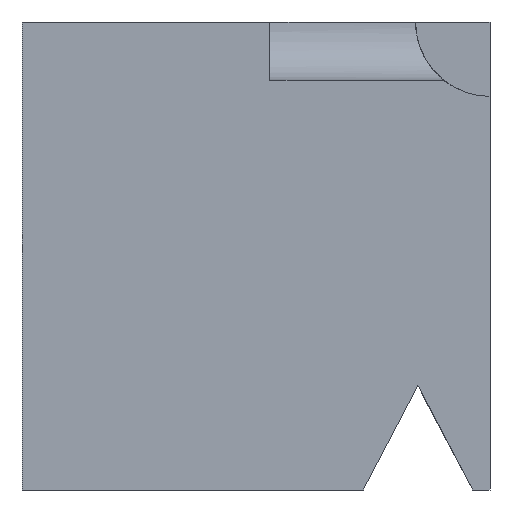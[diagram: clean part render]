
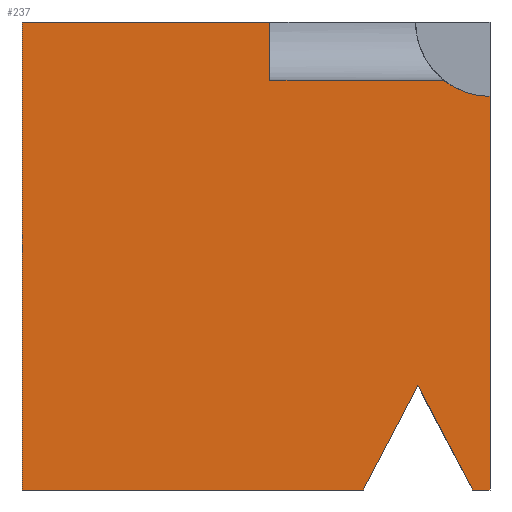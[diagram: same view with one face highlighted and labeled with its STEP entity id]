
A CAD part, left-side view. The second image highlights one B-rep face of the part: STEP entity #237.
In plain terms, the highlighted planar face has unit normal (-1, 0, 0).
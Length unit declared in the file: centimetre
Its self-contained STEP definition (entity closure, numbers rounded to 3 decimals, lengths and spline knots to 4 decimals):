
#4 = PLANE ( 'NONE',  #480 ) ;
#5 = VERTEX_POINT ( 'NONE', #208 ) ;
#10 = LINE ( 'NONE', #620, #73 ) ;
#15 = CIRCLE ( 'NONE', #579, 159.005 ) ;
#20 = ORIENTED_EDGE ( 'NONE', *, *, #349, .T. ) ;
#30 = CARTESIAN_POINT ( 'NONE',  ( 0., 270.71, 0. ) ) ;
#34 = VERTEX_POINT ( 'NONE', #356 ) ;
#48 = DIRECTION ( 'NONE',  ( 0., -0.465, 0.885 ) ) ;
#66 = DIRECTION ( 'NONE',  ( 0., 0., 1. ) ) ;
#73 = VECTOR ( 'NONE', #468, 100. ) ;
#108 = CARTESIAN_POINT ( 'NONE',  ( 0., 153.8986, 222.2711 ) ) ;
#119 = DIRECTION ( 'NONE',  ( -1., 0., 0. ) ) ;
#121 = ORIENTED_EDGE ( 'NONE', *, *, #298, .F. ) ;
#126 = ORIENTED_EDGE ( 'NONE', *, *, #132, .F. ) ;
#129 = LINE ( 'NONE', #339, #644 ) ;
#132 = EDGE_CURVE ( 'NONE', #322, #290, #145, .T. ) ;
#145 = LINE ( 'NONE', #639, #551 ) ;
#171 = LINE ( 'NONE', #568, #194 ) ;
#190 = LINE ( 'NONE', #443, #575 ) ;
#194 = VECTOR ( 'NONE', #573, 100. ) ;
#208 = CARTESIAN_POINT ( 'NONE',  ( 0., 37.0872, 0. ) ) ;
#221 = CARTESIAN_POINT ( 'NONE',  ( 0., 470.2648, 1000. ) ) ;
#227 = VERTEX_POINT ( 'NONE', #309 ) ;
#237 = ADVANCED_FACE ( 'NONE', ( #646 ), #4, .F. ) ;
#238 = CARTESIAN_POINT ( 'NONE',  ( 0., 0., 0. ) ) ;
#248 = CARTESIAN_POINT ( 'NONE',  ( 0., 1000., 0. ) ) ;
#252 = LINE ( 'NONE', #510, #310 ) ;
#259 = DIRECTION ( 'NONE',  ( 0., -1., 0. ) ) ;
#281 = EDGE_CURVE ( 'NONE', #290, #368, #10, .T. ) ;
#290 = VERTEX_POINT ( 'NONE', #221 ) ;
#298 = EDGE_CURVE ( 'NONE', #581, #227, #15, .T. ) ;
#309 = CARTESIAN_POINT ( 'NONE',  ( 0., 0., 840.995 ) ) ;
#310 = VECTOR ( 'NONE', #48, 100. ) ;
#314 = LINE ( 'NONE', #507, #341 ) ;
#319 = EDGE_CURVE ( 'NONE', #227, #435, #171, .T. ) ;
#320 = DIRECTION ( 'NONE',  ( 0., 1., 0. ) ) ;
#321 = CARTESIAN_POINT ( 'NONE',  ( 0., 1000., 1000. ) ) ;
#322 = VERTEX_POINT ( 'NONE', #333 ) ;
#326 = ORIENTED_EDGE ( 'NONE', *, *, #281, .F. ) ;
#330 = CARTESIAN_POINT ( 'NONE',  ( 0., 0., 1000. ) ) ;
#331 = EDGE_LOOP ( 'NONE', ( #656, #121, #425, #326, #126, #335, #379, #334, #20, #360 ) ) ;
#333 = CARTESIAN_POINT ( 'NONE',  ( 0., 1000., 1000. ) ) ;
#334 = ORIENTED_EDGE ( 'NONE', *, *, #595, .T. ) ;
#335 = ORIENTED_EDGE ( 'NONE', *, *, #441, .T. ) ;
#339 = CARTESIAN_POINT ( 'NONE',  ( 0., 1000., 0. ) ) ;
#341 = VECTOR ( 'NONE', #320, 100. ) ;
#349 = EDGE_CURVE ( 'NONE', #616, #5, #481, .T. ) ;
#356 = CARTESIAN_POINT ( 'NONE',  ( 0., 1000., 0. ) ) ;
#360 = ORIENTED_EDGE ( 'NONE', *, *, #550, .T. ) ;
#367 = EDGE_CURVE ( 'NONE', #34, #456, #129, .T. ) ;
#368 = VERTEX_POINT ( 'NONE', #538 ) ;
#379 = ORIENTED_EDGE ( 'NONE', *, *, #367, .T. ) ;
#380 = DIRECTION ( 'NONE',  ( 0., -0.465, -0.885 ) ) ;
#390 = DIRECTION ( 'NONE',  ( 0., 0., -1. ) ) ;
#395 = VECTOR ( 'NONE', #380, 100. ) ;
#425 = ORIENTED_EDGE ( 'NONE', *, *, #632, .T. ) ;
#432 = CARTESIAN_POINT ( 'NONE',  ( 0., 37.0872, 0. ) ) ;
#435 = VERTEX_POINT ( 'NONE', #238 ) ;
#441 = EDGE_CURVE ( 'NONE', #322, #34, #190, .T. ) ;
#443 = CARTESIAN_POINT ( 'NONE',  ( 0., 1000., 1000. ) ) ;
#456 = VERTEX_POINT ( 'NONE', #30 ) ;
#463 = CARTESIAN_POINT ( 'NONE',  ( 0., 98.7549, 875.3803 ) ) ;
#468 = DIRECTION ( 'NONE',  ( 0., 0., -1. ) ) ;
#472 = VECTOR ( 'NONE', #259, 100. ) ;
#480 = AXIS2_PLACEMENT_3D ( 'NONE', #321, #605, #612 ) ;
#481 = LINE ( 'NONE', #432, #395 ) ;
#493 = DIRECTION ( 'NONE',  ( 0., -1., 0. ) ) ;
#500 = LINE ( 'NONE', #248, #472 ) ;
#507 = CARTESIAN_POINT ( 'NONE',  ( 0., 470.2648, 875.3803 ) ) ;
#510 = CARTESIAN_POINT ( 'NONE',  ( 0., 153.8986, 222.2711 ) ) ;
#530 = DIRECTION ( 'NONE',  ( 0., -1., 0. ) ) ;
#538 = CARTESIAN_POINT ( 'NONE',  ( 0., 470.2648, 875.3803 ) ) ;
#550 = EDGE_CURVE ( 'NONE', #5, #435, #500, .T. ) ;
#551 = VECTOR ( 'NONE', #493, 100. ) ;
#568 = CARTESIAN_POINT ( 'NONE',  ( 0., 0., 1000. ) ) ;
#573 = DIRECTION ( 'NONE',  ( 0., 0., -1. ) ) ;
#575 = VECTOR ( 'NONE', #390, 100. ) ;
#579 = AXIS2_PLACEMENT_3D ( 'NONE', #330, #119, #66 ) ;
#581 = VERTEX_POINT ( 'NONE', #463 ) ;
#595 = EDGE_CURVE ( 'NONE', #456, #616, #252, .T. ) ;
#605 = DIRECTION ( 'NONE',  ( 1., 0., 0. ) ) ;
#612 = DIRECTION ( 'NONE',  ( 0., 0., -1. ) ) ;
#616 = VERTEX_POINT ( 'NONE', #108 ) ;
#620 = CARTESIAN_POINT ( 'NONE',  ( 0., 470.2648, 1000. ) ) ;
#632 = EDGE_CURVE ( 'NONE', #581, #368, #314, .T. ) ;
#639 = CARTESIAN_POINT ( 'NONE',  ( 0., 1000., 1000. ) ) ;
#644 = VECTOR ( 'NONE', #530, 100. ) ;
#646 = FACE_OUTER_BOUND ( 'NONE', #331, .T. ) ;
#656 = ORIENTED_EDGE ( 'NONE', *, *, #319, .F. ) ;
